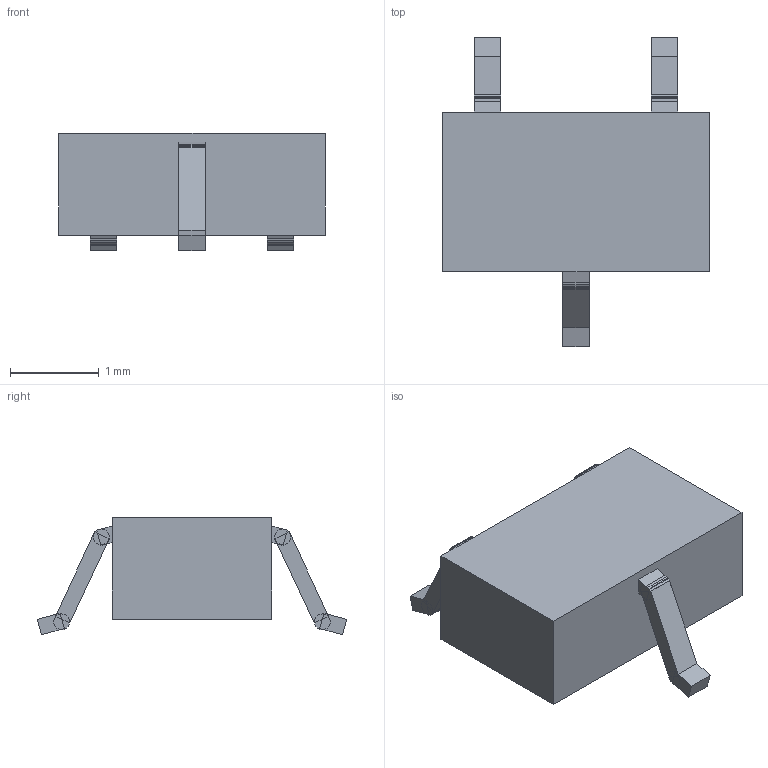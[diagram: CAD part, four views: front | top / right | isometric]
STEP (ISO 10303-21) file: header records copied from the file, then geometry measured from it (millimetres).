
FILE_DESCRIPTION(('FreeCAD Model'),'2;1');
FILE_NAME('Open CASCADE Shape Model','2021-06-28T19:50:03',('Author'),( ''),'Open CASCADE STEP processor 7.5','FreeCAD','Unknown');
FILE_SCHEMA(('AUTOMOTIVE_DESIGN { 1 0 10303 214 1 1 1 1 }'));
Length unit declared in the file: millimetre
Products named in the file (1): Group003
Bounding box: 3 x 3.49 x 1.32 mm (x, y, z)
Volume: 6.4 mm3; surface area: 26 mm2
Topology: 1 solids, 1 shells, 174 faces, 585 edges, 416 vertices
Faces by surface type: plane 174
Entity records: 15108 total; most frequent: CARTESIAN_POINT 2418, DIRECTION 2033, LINE 1683, VECTOR 1683, ORIENTED_EDGE 1170, PCURVE 1170, DEFINITIONAL_REPRESENTATION 1170, EDGE_CURVE 585
